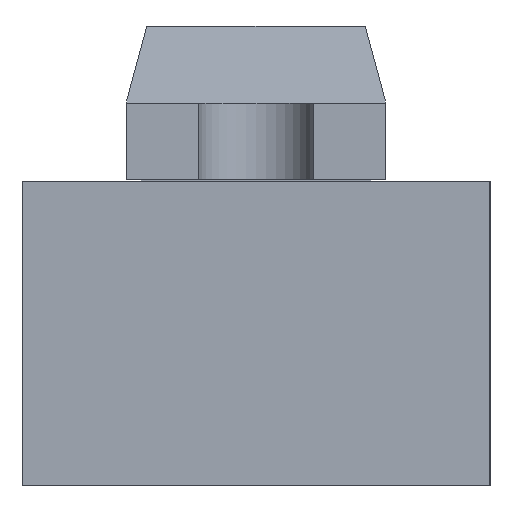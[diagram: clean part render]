
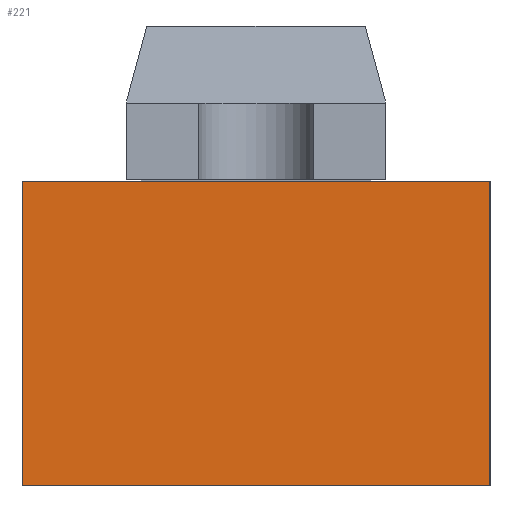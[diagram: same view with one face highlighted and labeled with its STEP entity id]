
A CAD part, left-side view. The second image highlights one B-rep face of the part: STEP entity #221.
In plain terms, the highlighted planar face has unit normal (-1, 0, 0).
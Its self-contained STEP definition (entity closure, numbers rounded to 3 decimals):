
#62 = VERTEX_POINT('',#63);
#63 = CARTESIAN_POINT('',(-2.768,1.216,-1.59));
#71 = VERTEX_POINT('',#72);
#72 = CARTESIAN_POINT('',(-2.768,1.216,-0.01));
#78 = EDGE_CURVE('',#62,#71,#79,.T.);
#79 = LINE('',#80,#81);
#80 = CARTESIAN_POINT('',(-2.768,1.216,-1.59));
#81 = VECTOR('',#82,1.);
#82 = DIRECTION('',(0.,0.,1.));
#94 = EDGE_CURVE('',#62,#95,#97,.T.);
#95 = VERTEX_POINT('',#96);
#96 = CARTESIAN_POINT('',(-2.768,-1.216,-1.59));
#97 = LINE('',#98,#99);
#98 = CARTESIAN_POINT('',(-2.768,1.216,-1.59));
#99 = VECTOR('',#100,1.);
#100 = DIRECTION('',(0.,-1.,0.));
#118 = EDGE_CURVE('',#71,#119,#121,.T.);
#119 = VERTEX_POINT('',#120);
#120 = CARTESIAN_POINT('',(-2.768,-1.216,-0.01));
#121 = LINE('',#122,#123);
#122 = CARTESIAN_POINT('',(-2.768,1.216,-0.01));
#123 = VECTOR('',#124,1.);
#124 = DIRECTION('',(0.,-1.,0.));
#211 = EDGE_CURVE('',#95,#119,#212,.T.);
#212 = LINE('',#213,#214);
#213 = CARTESIAN_POINT('',(-2.768,-1.216,-1.59));
#214 = VECTOR('',#215,1.);
#215 = DIRECTION('',(0.,0.,1.));
#221 = ADVANCED_FACE('',(#222),#228,.T.);
#222 = FACE_BOUND('',#223,.T.);
#223 = EDGE_LOOP('',(#224,#225,#226,#227));
#224 = ORIENTED_EDGE('',*,*,#78,.F.);
#225 = ORIENTED_EDGE('',*,*,#94,.T.);
#226 = ORIENTED_EDGE('',*,*,#211,.T.);
#227 = ORIENTED_EDGE('',*,*,#118,.F.);
#228 = PLANE('',#229);
#229 = AXIS2_PLACEMENT_3D('',#230,#231,#232);
#230 = CARTESIAN_POINT('',(-2.768,1.216,-1.59));
#231 = DIRECTION('',(-1.,0.,0.));
#232 = DIRECTION('',(0.,0.,1.));
